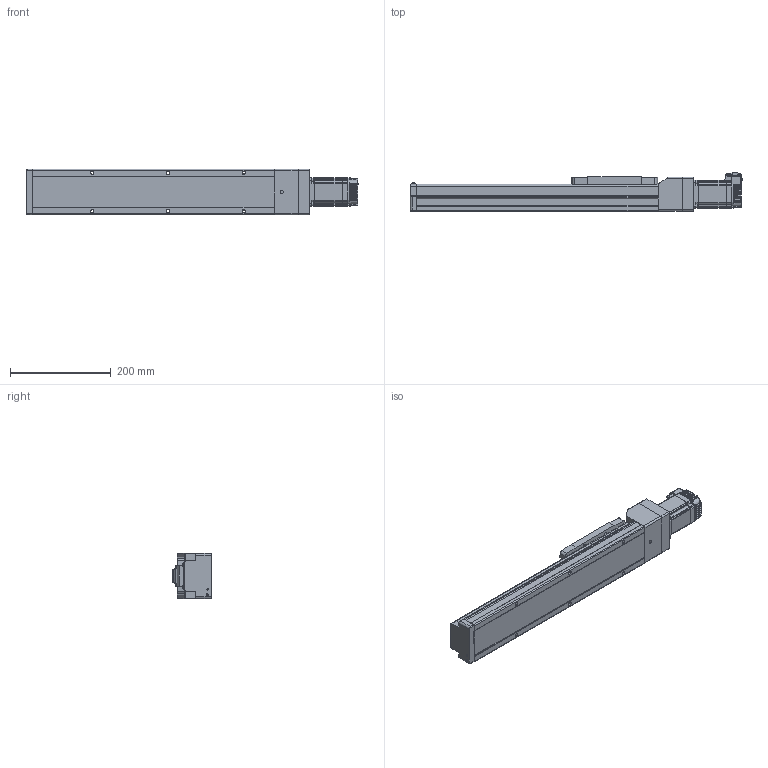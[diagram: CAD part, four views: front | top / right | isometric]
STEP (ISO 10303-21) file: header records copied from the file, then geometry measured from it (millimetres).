
FILE_DESCRIPTION (( 'STEP AP214' ), '1' );
FILE_NAME ('LEFS3(+)-40NM1仩-300-23L.STEP', '2023-06-02T05:06:07', ( '' ), ( '' ), 'SwSTEP 2.0', 'SolidWorks 2019', '' );
FILE_SCHEMA (( 'AUTOMOTIVE_DESIGN' ));
Length unit declared in the file: millimetre
Products named in the file (5): LEFS3(+)-40NM1_Motor Flange; LEFS3(+)-40NM1_TABLE; CM3(+)-23L50A_4-M4; LEFS3(+)-40NM1?_BODY_300; LEFS3(+)-40NM1仩-300-23L
Assembly tree (4 placements, depth 2):
  LEFS3(+)-40NM1仩-300-23L
    LEFS3(+)-40NM1?_BODY_300
    LEFS3(+)-40NM1_TABLE
    LEFS3(+)-40NM1_Motor Flange
    CM3(+)-23L50A_4-M4
Bounding box: 657.6 x 76.75 x 90 mm (x, y, z)
Volume: 2828954.7 mm3; surface area: 274822.4 mm2
Topology: 5 solids, 14 shells, 1646 faces, 4269 edges, 2640 vertices
Faces by surface type: plane 764, cylinder 511, bspline 133, cone 117, torus 74, sphere 47
Entity records: 55777 total; most frequent: CARTESIAN_POINT 13961, ORIENTED_EDGE 8388, DIRECTION 7810, EDGE_CURVE 4194, AXIS2_PLACEMENT_3D 2652, VERTEX_POINT 2640, LINE 2506, VECTOR 2506
